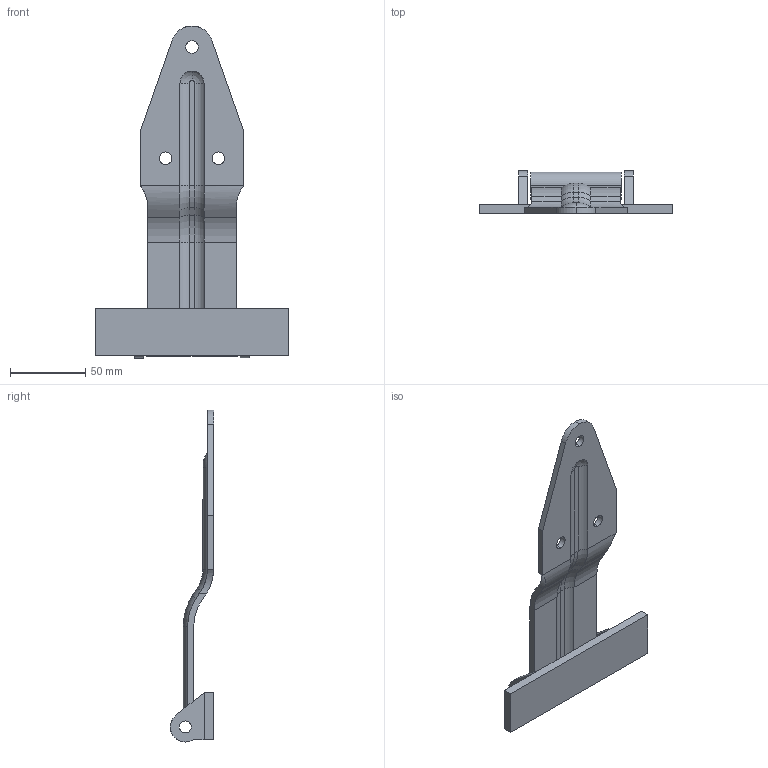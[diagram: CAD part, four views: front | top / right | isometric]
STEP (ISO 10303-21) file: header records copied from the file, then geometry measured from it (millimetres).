
FILE_DESCRIPTION (( 'STEP AP214' ), '1' );
FILE_NAME ('B406 STEP FILE.STEP', '2026-03-05T13:04:18', ( '' ), ( '' ), 'SwSTEP 2.0', 'SolidWorks 2025', '' );
FILE_SCHEMA (( 'AUTOMOTIVE_DESIGN' ));
Length unit declared in the file: millimetre
Products named in the file (3): Hinge Bracket; HINGE BLADE_Default<As Machined>; B406 STEP FILE
Assembly tree (2 placements, depth 2):
  B406 STEP FILE
    Hinge Bracket
    HINGE BLADE_Default<As Machined>
Bounding box: 129 x 28.84 x 220.98 mm (x, y, z)
Volume: 87898 mm3; surface area: 43336.5 mm2
Topology: 3 solids, 3 shells, 102 faces, 242 edges, 146 vertices
Faces by surface type: cylinder 45, plane 39, torus 12, cone 6
Entity records: 3093 total; most frequent: CARTESIAN_POINT 563, DIRECTION 550, ORIENTED_EDGE 484, EDGE_CURVE 242, AXIS2_PLACEMENT_3D 207, VERTEX_POINT 146, LINE 136, VECTOR 136
